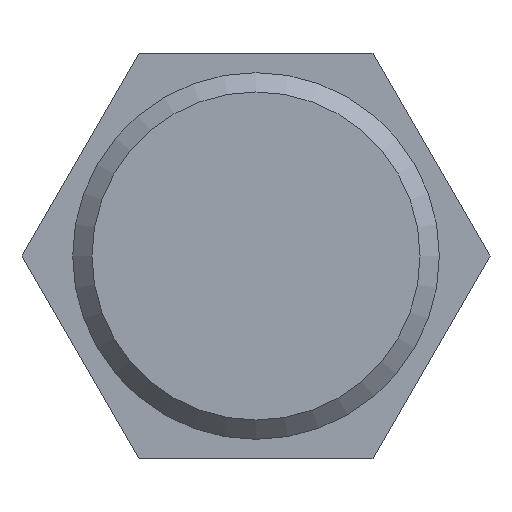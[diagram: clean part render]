
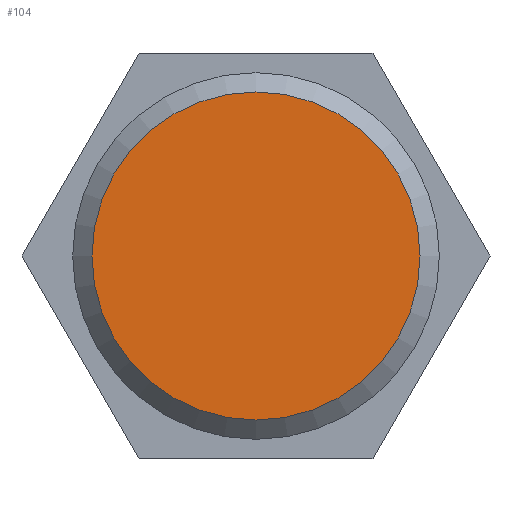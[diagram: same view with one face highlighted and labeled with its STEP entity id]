
A CAD part, left-side view. The second image highlights one B-rep face of the part: STEP entity #104.
In plain terms, the highlighted planar face has unit normal (-1, 0, 0).
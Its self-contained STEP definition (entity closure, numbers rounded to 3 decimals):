
#73=CARTESIAN_POINT('',(0.,8.5,0.));
#74=VERTEX_POINT('',#73);
#75=CARTESIAN_POINT('',(0.,0.0,0.0));
#76=DIRECTION('',(1.0,0.0,0.0));
#77=DIRECTION('',(0.0,-1.0,0.0));
#78=AXIS2_PLACEMENT_3D('',#75,#76,#77);
#79=CIRCLE('',#78,8.5);
#80=EDGE_CURVE('',#74,#74,#79,.T.);
#96=CARTESIAN_POINT('',(0.,4.75,0.0));
#97=DIRECTION('',(-1.0,0.0,0.0));
#98=DIRECTION('',(0.0,0.0,1.0));
#99=AXIS2_PLACEMENT_3D('',#96,#97,#98);
#100=PLANE('',#99);
#101=ORIENTED_EDGE('',*,*,#80,.F.);
#102=EDGE_LOOP('',(#101));
#103=FACE_OUTER_BOUND('',#102,.T.);
#104=ADVANCED_FACE('',(#103),#100,.T.);
